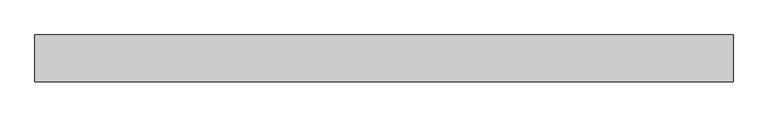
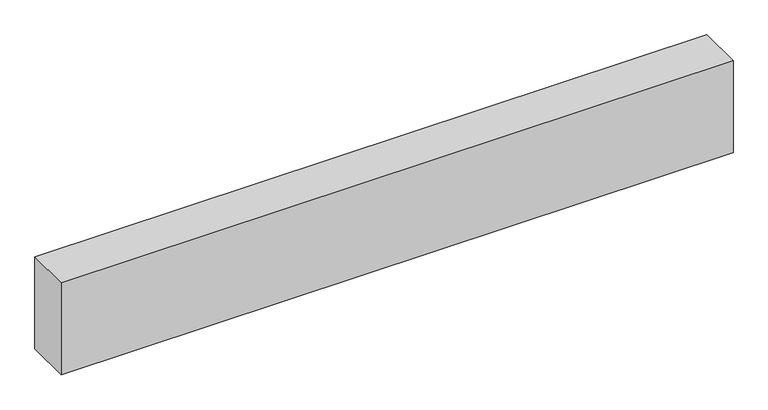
"""IFC4 building model written with IfcOpenShell, lengths in millimetres: proxy geometry."""

from ifc_helpers import new_model, si_unit, frame, origin, place, context, project, spatial, polyline, outline, extrude, source, transform, mapped, element, save


def structural_framing_f6c0dc64(model_context):
    return source(origin(), model_context, "Body", "SweptSolid", [
        extrude(outline(polyline([(-1039.8, -70.0), (-1039.8, 70.0), (1039.8, 70.0), (1039.8, -70.0), (-1039.8, -70.0)])), frame((0.0, 0.0, -300.0), z_axis=(0.0, 0.0, 1.0), x_axis=(1.0, 0.0, 0.0)), (0.0, 0.0, 1.0), 300.0),
    ])


if __name__ == "__main__":
    model = new_model("IFC4")
    model_context = context("Model", 3, world=origin())
    ifc_project = project(units=[si_unit("LENGTHUNIT", "METRE", prefix="MILLI")], contexts=[model_context])
    site = spatial("IfcSite", under=ifc_project)
    building = spatial("IfcBuilding", under=site)
    placement = place(None, origin())
    structural_framing_shape = structural_framing_f6c0dc64(model_context)
    element("IfcBuildingElementProxy", 1, Name="Structural Framing", at=placement, inside=building, context=model_context, shape_type="MappedRepresentation", body=[
        mapped(structural_framing_shape, transform((0.0, 0.0, 0.0), x_axis=(1.0, 0.0, 0.0), y_axis=(0.0, 1.0, 0.0), z_axis=(0.0, 0.0, 1.0))),
    ])
    save(model, "model.ifc")
